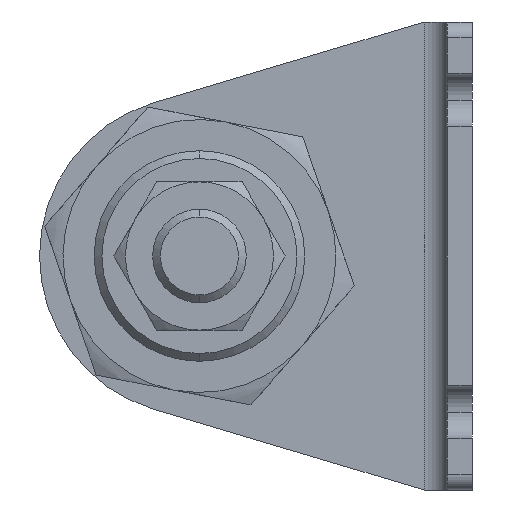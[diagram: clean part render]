
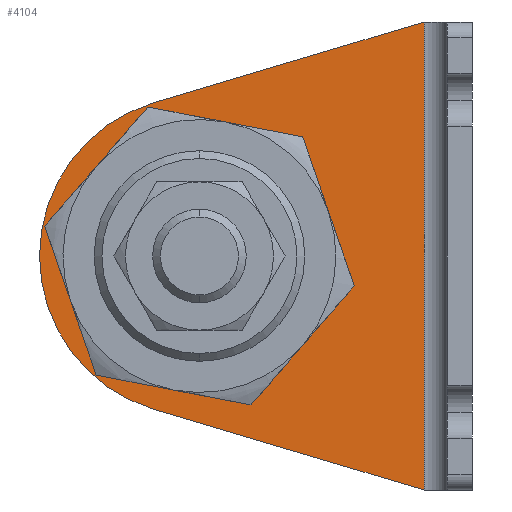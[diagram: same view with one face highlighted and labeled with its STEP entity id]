
A CAD part, left-side view. The second image highlights one B-rep face of the part: STEP entity #4104.
In plain terms, the highlighted planar face has unit normal (-1, 0, 0) as drawn and (1, 0, 0) by its records, which use the part's own axes.
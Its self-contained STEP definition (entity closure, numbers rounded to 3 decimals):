
#15 = DIRECTION ( 'NONE',  ( 1., 0., 0. ) ) ;
#48 = EDGE_LOOP ( 'NONE', ( #1522, #1569 ) ) ;
#152 = CIRCLE ( 'NONE', #3837, 13.5 ) ;
#173 = CARTESIAN_POINT ( 'NONE',  ( 3.2, 48.5, -30. ) ) ;
#322 = VERTEX_POINT ( 'NONE', #2549 ) ;
#339 = AXIS2_PLACEMENT_3D ( 'NONE', #3959, #15, #1544 ) ;
#528 = CARTESIAN_POINT ( 'NONE',  ( 3.2, 35., -30. ) ) ;
#544 = AXIS2_PLACEMENT_3D ( 'NONE', #4285, #634, #3013 ) ;
#626 = DIRECTION ( 'NONE',  ( 0., 0.958, 0.286 ) ) ;
#634 = DIRECTION ( 'NONE',  ( 1., 0., 0. ) ) ;
#639 = CIRCLE ( 'NONE', #2303, 20.5 ) ;
#839 = CARTESIAN_POINT ( 'NONE',  ( 3.2, 6.2, -60. ) ) ;
#1038 = VECTOR ( 'NONE', #626, 1000. ) ;
#1070 = CARTESIAN_POINT ( 'NONE',  ( 3.2, 3.2, -60. ) ) ;
#1194 = DIRECTION ( 'NONE',  ( 0., 0., -1. ) ) ;
#1214 = EDGE_CURVE ( 'NONE', #322, #1406, #3875, .T. ) ;
#1289 = ORIENTED_EDGE ( 'NONE', *, *, #2116, .T. ) ;
#1406 = VERTEX_POINT ( 'NONE', #2321 ) ;
#1515 = FACE_OUTER_BOUND ( 'NONE', #1657, .T. ) ;
#1522 = ORIENTED_EDGE ( 'NONE', *, *, #2265, .F. ) ;
#1544 = DIRECTION ( 'NONE',  ( 0., 1., 0. ) ) ;
#1569 = ORIENTED_EDGE ( 'NONE', *, *, #2991, .F. ) ;
#1657 = EDGE_LOOP ( 'NONE', ( #2427, #2062, #1289, #1958, #2196 ) ) ;
#1674 = DIRECTION ( 'NONE',  ( 1., 0., 0. ) ) ;
#1719 = DIRECTION ( 'NONE',  ( 0., 0.958, -0.286 ) ) ;
#1794 = CARTESIAN_POINT ( 'NONE',  ( 3.2, 19.903, -4.094 ) ) ;
#1958 = ORIENTED_EDGE ( 'NONE', *, *, #4456, .F. ) ;
#2057 = CARTESIAN_POINT ( 'NONE',  ( 3.2, 35., -30. ) ) ;
#2062 = ORIENTED_EDGE ( 'NONE', *, *, #1214, .T. ) ;
#2116 = EDGE_CURVE ( 'NONE', #1406, #3775, #639, .T. ) ;
#2196 = ORIENTED_EDGE ( 'NONE', *, *, #3574, .T. ) ;
#2213 = CARTESIAN_POINT ( 'NONE',  ( 3.2, 6.2, 0. ) ) ;
#2265 = EDGE_CURVE ( 'NONE', #4347, #2951, #3724, .T. ) ;
#2282 = LINE ( 'NONE', #839, #3936 ) ;
#2292 = AXIS2_PLACEMENT_3D ( 'NONE', #1070, #1674, #2588 ) ;
#2303 = AXIS2_PLACEMENT_3D ( 'NONE', #2057, #2826, #3525 ) ;
#2321 = CARTESIAN_POINT ( 'NONE',  ( 3.2, 55.5, -30. ) ) ;
#2427 = ORIENTED_EDGE ( 'NONE', *, *, #3180, .T. ) ;
#2549 = CARTESIAN_POINT ( 'NONE',  ( 3.2, 40.868, -49.642 ) ) ;
#2588 = DIRECTION ( 'NONE',  ( 0., 1., 0. ) ) ;
#2801 = VERTEX_POINT ( 'NONE', #2213 ) ;
#2826 = DIRECTION ( 'NONE',  ( 1., 0., 0. ) ) ;
#2845 = DIRECTION ( 'NONE',  ( 0., 1., 0. ) ) ;
#2951 = VERTEX_POINT ( 'NONE', #3791 ) ;
#2991 = EDGE_CURVE ( 'NONE', #2951, #4347, #152, .T. ) ;
#3008 = PLANE ( 'NONE',  #2292 ) ;
#3013 = DIRECTION ( 'NONE',  ( 0., 1., 0. ) ) ;
#3121 = VECTOR ( 'NONE', #1719, 1000. ) ;
#3180 = EDGE_CURVE ( 'NONE', #3873, #322, #3221, .T. ) ;
#3221 = LINE ( 'NONE', #3849, #1038 ) ;
#3365 = FACE_BOUND ( 'NONE', #48, .T. ) ;
#3525 = DIRECTION ( 'NONE',  ( 0., 1., 0. ) ) ;
#3574 = EDGE_CURVE ( 'NONE', #2801, #3873, #2282, .T. ) ;
#3724 = CIRCLE ( 'NONE', #339, 13.5 ) ;
#3761 = LINE ( 'NONE', #1794, #3121 ) ;
#3775 = VERTEX_POINT ( 'NONE', #4093 ) ;
#3791 = CARTESIAN_POINT ( 'NONE',  ( 3.2, 21.5, -30. ) ) ;
#3837 = AXIS2_PLACEMENT_3D ( 'NONE', #528, #4069, #2845 ) ;
#3849 = CARTESIAN_POINT ( 'NONE',  ( 3.2, 3.446, -60.823 ) ) ;
#3873 = VERTEX_POINT ( 'NONE', #4318 ) ;
#3875 = CIRCLE ( 'NONE', #544, 20.5 ) ;
#3936 = VECTOR ( 'NONE', #1194, 1000. ) ;
#3959 = CARTESIAN_POINT ( 'NONE',  ( 3.2, 35., -30. ) ) ;
#4069 = DIRECTION ( 'NONE',  ( 1., 0., 0. ) ) ;
#4093 = CARTESIAN_POINT ( 'NONE',  ( 3.2, 40.868, -10.358 ) ) ;
#4104 = ADVANCED_FACE ( 'NONE', ( #3365, #1515 ), #3008, .T. ) ;
#4285 = CARTESIAN_POINT ( 'NONE',  ( 3.2, 35., -30. ) ) ;
#4318 = CARTESIAN_POINT ( 'NONE',  ( 3.2, 6.2, -60. ) ) ;
#4347 = VERTEX_POINT ( 'NONE', #173 ) ;
#4456 = EDGE_CURVE ( 'NONE', #2801, #3775, #3761, .T. ) ;
